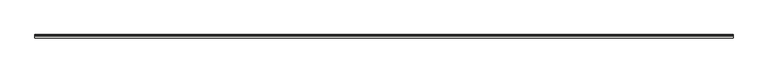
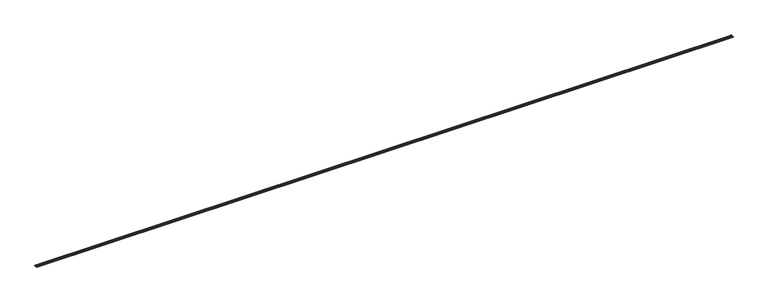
"""IFC4 building model written with IfcOpenShell, lengths in millimetres: slab geometry, ROSA GRES_G49 : Pieza G49_Aqua_Plomo_Anti-Slip."""

from ifc_helpers import new_model, si_unit, point, frame, frame_2d, origin, place, context, project, spatial, polyline, circle_curve, trimmed, segment, composite_curve, outline, extrude, source, transform, mapped, element, save


def slab_47887b1a(model_context):
    return source(origin(), model_context, "Body", "SweptSolid", [
        extrude(outline(composite_curve([segment(polyline([(-0.4959854, 174.3946403), (-15.4742511, 175.6138015)]), True, "CONTINUOUS"), segment(trimmed(circle_curve(frame_2d((-27.0041663, 174.9936892)), 11.5465789), [point((-15.4742511, 175.6138015))], [point((-38.2820268, 177.4702483))], True, "CARTESIAN"), True, "CONTINUOUS"), segment(polyline([(-38.2820268, 177.4702483), (-119.1037338, 184.0487594), (-117.9849268, 197.7941027), (-69.9836117, 193.8870189), (-69.5852402, 193.1051707)]), True, "CONTINUOUS"), segment(trimmed(circle_curve(frame_2d((-63.9188624, 195.2410459)), 6.0555595), [point((-69.5852402, 193.1051707))], [point((-64.4101321, 189.205447))], True, "CARTESIAN"), True, "CONTINUOUS"), segment(polyline([(-64.4101321, 189.205447), (-44.9243788, 187.6193973)]), True, "CONTINUOUS"), segment(trimmed(circle_curve(frame_2d((-44.6810926, 190.6083422)), 2.9988298), [point((-44.9243788, 187.6193973))], [point((-42.1786827, 188.9557911))], True, "CARTESIAN"), True, "CONTINUOUS"), segment(polyline([(-42.1786827, 188.9557911), (-41.0138307, 190.7196924), (-38.3959439, 195.0159662), (-34.9297931, 201.7687131), (-8.4761969, 199.6155199)]), True, "CONTINUOUS"), segment(trimmed(circle_curve(frame_2d((-9.287465, 189.648482)), 10.0), [point((-8.4761969, 199.6155199))], [point((0.6795727, 188.8372115))], False, "CARTESIAN"), True, "CONTINUOUS"), segment(polyline([(0.6795727, 188.8372115), (-0.4959854, 174.3946403)]), True, "CONTINUOUS")], self_intersect=False)), frame((0.0, 0.0, 0.0), z_axis=(1.0, 0.0, 0.0), x_axis=(0.0, 1.0, 0.0)), (0.0, 0.0, 1.0), 24991.25),
    ])


if __name__ == "__main__":
    model = new_model("IFC4")
    model_context = context("Model", 3, world=origin())
    ifc_project = project(units=[si_unit("LENGTHUNIT", "METRE", prefix="MILLI")], contexts=[model_context])
    site = spatial("IfcSite", under=ifc_project)
    building = spatial("IfcBuilding", under=site)
    placement = place(None, origin())
    slab_shape = slab_47887b1a(model_context)
    element("IfcSlab", 1, ObjectType="ROSA GRES_G49 : Pieza G49_Aqua_Plomo_Anti-Slip", at=placement, inside=building, context=model_context, shape_type="MappedRepresentation", body=[
        mapped(slab_shape, transform((0.0, 0.0, 0.0), x_axis=(1.0, 0.0, 0.0), y_axis=(0.0, 1.0, 0.0), z_axis=(0.0, 0.0, 1.0))),
    ])
    save(model, "model.ifc")
